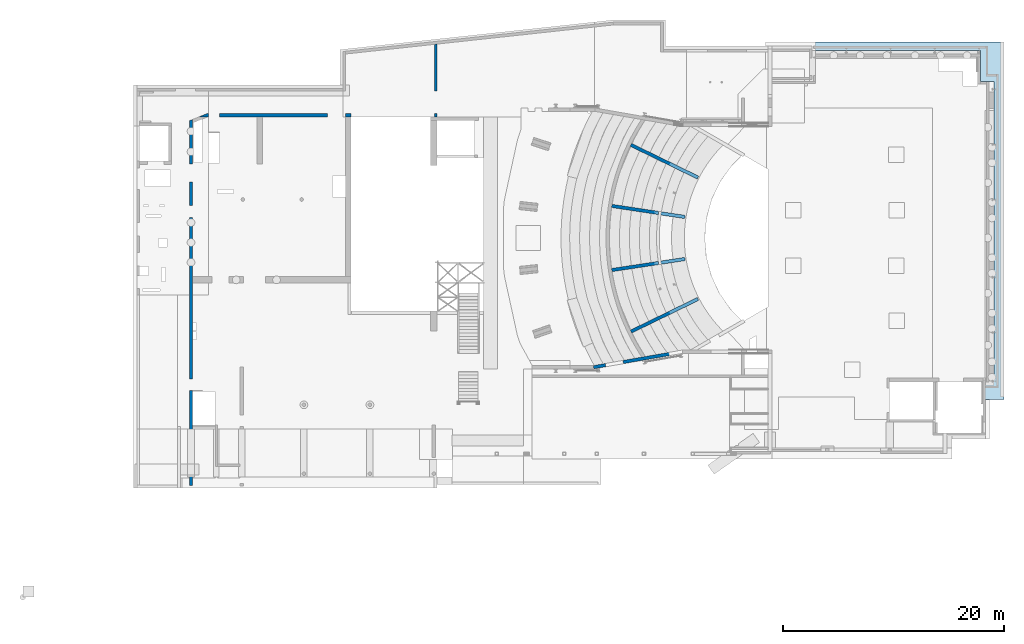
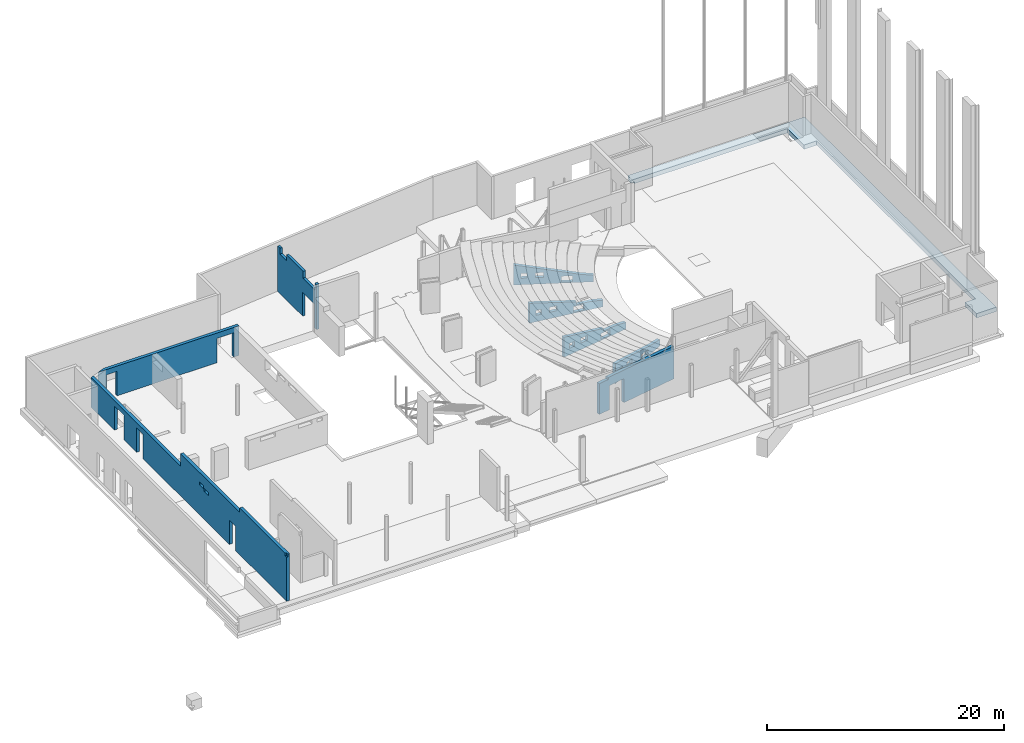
# One storey, part 33 of 34: 8 walls, 1 slab.
"""IFC2X3 building model written with IfcOpenShell, lengths in millimetres."""

from ifc_helpers import new_model, entity, si_unit, converted_unit, derived_unit, direction, frame, origin, place, context, subcontext, project, spatial, faceted_brep, material, layer, layer_set, type_object, element, save


model = new_model("IFC2X3")

# Units and contexts
model_context = context("Model", 3, precision=0.01, world=origin(), true_north=direction((6.12303176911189e-17, 1.0)))
body_context = subcontext(model_context, "Body", "Model", "MODEL_VIEW")
ifc_project = project(units=[si_unit("LENGTHUNIT", "METRE", prefix="MILLI"), si_unit("AREAUNIT", "SQUARE_METRE", prefix="MILLI"), si_unit("VOLUMEUNIT", "CUBIC_METRE"), converted_unit("PLANEANGLEUNIT", "DEGREE", entity("IfcRatioMeasure", 0.0174532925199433), si_unit("PLANEANGLEUNIT", "RADIAN"), dimensions=[0, 0, 0, 0, 0, 0, 0]), si_unit("MASSUNIT", "GRAM", prefix="KILO"), derived_unit("MASSDENSITYUNIT", [(si_unit("MASSUNIT", "GRAM", prefix="KILO"), 1), (si_unit("LENGTHUNIT", "METRE"), -3)]), derived_unit("MOMENTOFINERTIAUNIT", [(si_unit("LENGTHUNIT", "METRE"), 4)]), si_unit("TIMEUNIT", "SECOND"), si_unit("FREQUENCYUNIT", "HERTZ"), si_unit("THERMODYNAMICTEMPERATUREUNIT", "DEGREE_CELSIUS"), derived_unit("THERMALTRANSMITTANCEUNIT", [(si_unit("MASSUNIT", "GRAM", prefix="KILO"), 1), (si_unit("THERMODYNAMICTEMPERATUREUNIT", "KELVIN"), -1), (si_unit("TIMEUNIT", "SECOND"), -3)]), derived_unit("VOLUMETRICFLOWRATEUNIT", [(si_unit("LENGTHUNIT", "METRE"), 3), (si_unit("TIMEUNIT", "SECOND"), -1)]), si_unit("ELECTRICCURRENTUNIT", "AMPERE"), si_unit("ELECTRICVOLTAGEUNIT", "VOLT"), si_unit("POWERUNIT", "WATT"), si_unit("FORCEUNIT", "NEWTON", prefix="KILO"), si_unit("ILLUMINANCEUNIT", "LUX"), si_unit("LUMINOUSFLUXUNIT", "LUMEN"), si_unit("LUMINOUSINTENSITYUNIT", "CANDELA"), derived_unit("USERDEFINED", [(si_unit("MASSUNIT", "GRAM", prefix="KILO"), -1), (si_unit("LENGTHUNIT", "METRE"), -2), (si_unit("TIMEUNIT", "SECOND"), 3), (si_unit("LUMINOUSFLUXUNIT", "LUMEN"), 1)]), derived_unit("LINEARVELOCITYUNIT", [(si_unit("LENGTHUNIT", "METRE"), 1), (si_unit("TIMEUNIT", "SECOND"), -1)]), si_unit("PRESSUREUNIT", "PASCAL"), derived_unit("USERDEFINED", [(si_unit("LENGTHUNIT", "METRE"), -2), (si_unit("MASSUNIT", "GRAM", prefix="KILO"), 1), (si_unit("TIMEUNIT", "SECOND"), -2)]), derived_unit("LINEARFORCEUNIT", [(si_unit("MASSUNIT", "GRAM", prefix="KILO"), 1), (si_unit("LENGTHUNIT", "METRE"), 1), (si_unit("TIMEUNIT", "SECOND"), -2), (si_unit("LENGTHUNIT", "METRE"), -1)]), derived_unit("PLANARFORCEUNIT", [(si_unit("MASSUNIT", "GRAM", prefix="KILO"), 1), (si_unit("LENGTHUNIT", "METRE"), 1), (si_unit("TIMEUNIT", "SECOND"), -2), (si_unit("LENGTHUNIT", "METRE"), -2)])], contexts=[model_context])

# Site, building, storey
site_placement = place(None, origin())
site = spatial("IfcSite", under=ifc_project, at=site_placement, Name="Theater aan de Parade", CompositionType="ELEMENT")
building_placement = place(site_placement, origin())
building = spatial("IfcBuilding", under=site, at=building_placement, Name="Theater aan de Parade", CompositionType="ELEMENT")
storey_placement = place(building_placement, frame((0.0, 0.0, 3.49116848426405e-09)))
storey = spatial("IfcBuildingStorey", under=building, at=storey_placement, Name="00 begane grond", CompositionType="ELEMENT", Elevation=3.49116848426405e-09)

# Slab
ifc_material_1 = material(Name="00_PBT_MAT_beton t.p.g._C30/37")
slab_type = type_object("IfcSlabType", Name="Floor:28_PBT_FL_beton t.p.g._d=450_C30/37", PredefinedType="FLOOR")
slab_placement = place(storey_placement, origin())
element("IfcSlab", 1, at=slab_placement, inside=storey, type_object=slab_type, material=ifc_material_1, Name="Floor:28_PBT_FL_beton t.p.g._d=450_C30/37", ObjectType="Floor:28_PBT_FL_beton t.p.g._d=450_C30/37", PredefinedType="FLOOR", context=body_context, shape_type="Brep", body=[
    faceted_brep([(86766.0, 19810.0002435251, -740.0), (86961.0, 19810.0002435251, -740.0), (87796.0, 19810.0002435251, -740.0), (87796.0, 43961.8723406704, -740.0), (87796.0, 46611.8723406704, -740.0), (86555.1683175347, 46611.8723406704, -740.0), (86555.1683175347, 49412.0, -740.0), (86305.1683175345, 49412.0, -740.0), (71657.0, 49412.0, -740.0), (71657.0, 49820.0, -740.0), (71657.0, 50170.0, -740.0), (88360.0, 50170.0, -740.0), (88610.0, 50170.0, -740.0), (88680.0, 50170.0, -740.0), (88680.0, 18105.0, -740.0), (88680.0, 17855.0, -740.0), (86766.0, 17855.0, -740.0), (87796.0, 19810.0002435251, -290.0), (87016.0, 19810.0002435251, -290.0), (86766.0, 19810.0002435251, -290.0), (86766.0, 17855.0, -290.0), (87016.0, 17855.0, -290.0), (88680.0, 17855.0, -290.0), (88680.0, 50170.0, -290.0), (71456.41678021, 50170.0, -290.0), (71456.4185837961, 49812.0, -290.0), (71307.1321785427, 49812.0, -290.0), (71307.1321785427, 49412.0, -290.0), (86555.1683175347, 49412.0, -290.0), (86555.1683175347, 46611.8723406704, -290.0), (87796.0, 46611.8723406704, -290.0), (71307.1321785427, 49412.0, -550.0), (71657.0, 49412.0, -550.0), (71456.41678021, 50170.0, -550.0), (71456.4185837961, 49812.0, -550.0), (71657.0, 50170.0, -550.0), (86766.0, 17855.0, -390.0), (71307.1321785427, 49812.0, -550.0)], [[[0, 1, 2, 3, 4, 5, 6, 7, 8, 9, 10, 11, 12, 13, 14, 15, 16]], [[17, 18, 19, 20, 21, 22, 23, 24, 25, 26, 27, 28, 29, 30]], [[2, 1, 0, 19, 18, 17]], [[4, 3, 2, 17, 30]], [[5, 4, 30, 29]], [[6, 5, 29, 28]], [[28, 27, 31, 32, 8, 7, 6]], [[25, 24, 33, 34]], [[24, 23, 13, 12, 11, 10, 35, 33]], [[15, 14, 13, 23, 22]], [[16, 15, 22, 21, 20, 36]], [[0, 16, 36, 20, 19]], [[27, 26, 37, 31]], [[26, 25, 34, 37]], [[35, 32, 31, 37, 34, 33]], [[32, 35, 10, 9, 8]]]),
])

# Walls
ifc_material_2 = material(Name="00_PBT_MAT_beton t.p.g.")
ifc_layer_1 = layer(ifc_material_2, 300.0)
ifc_layer_set_1 = layer_set([ifc_layer_1], Name="Basic Wall:28_PBT_WA_beton t.p.g._d=300_bestaand")
wall_type_1 = type_object("IfcWallType", Name="Basic Wall:28_PBT_WA_beton t.p.g._d=300_bestaand", PredefinedType="STANDARD", material=ifc_layer_set_1)
wall_1_placement = place(storey_placement, frame((53233.3110657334, 35358.0453580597, -60.0), z_axis=(0.0, 0.0, 1.0), x_axis=(0.988744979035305, -0.149610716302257, 0.0)))
element("IfcWall", 2, at=wall_1_placement, inside=storey, type_object=wall_type_1, Name="Basic Wall:28_PBT_WA_beton t.p.g._d=300_bestaand", ObjectType="Basic Wall:28_PBT_WA_beton t.p.g._d=300_bestaand", context=body_context, shape_type="Brep", body=[
    faceted_brep([(0.0, -150.0, 0.0), (619.638540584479, -150.0, 660.0), (619.638540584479, -150.0, 1160.0), (1119.63854058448, -150.0, 660.0), (1819.63854058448, -150.0, 660.0), (4014.63854058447, -150.0, 100.0), (6685.90223533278, -150.0, 0.0), (0.0, -150.0, 840.927086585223), (4964.63854058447, -150.0, 100.0), (5604.59947592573, -150.0, 830.0), (6685.90223533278, -150.0, 652.802397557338), (6685.90223533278, -150.0, 679.668058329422), (5546.72611414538, -150.0, 830.0), (4964.63854058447, -150.0, 700.0), (4273.7270794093, -150.0, 830.0), (4014.63854058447, -150.0, 700.0), (4273.7270794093, -150.0, 1103.88466809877), (4273.7270794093, -150.0, 1120.0), (2519.63854058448, -150.0, 1160.0), (30.1651784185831, -150.0, 2052.0), (0.0, -150.0, 2052.0), (1119.63854058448, -150.0, 1160.0), (1819.63854058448, -150.0, 1160.0), (2519.63854058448, -150.0, 660.0), (5604.59947592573, 150.0, 830.0), (6688.85036045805, 150.0, 652.450528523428), (6688.85036045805, 150.0, 0.0), (4964.63854058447, 150.0, 100.0), (6688.85036045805, 150.0, 679.258184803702), (4964.63854058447, 150.0, 700.0), (4273.72707940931, 150.0, 830.0), (4014.63854058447, 150.0, 100.0), (0.447624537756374, 150.0, 0.0), (1819.63854058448, 150.0, 660.0), (1119.63854058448, 150.0, 660.0), (619.638540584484, 150.0, 660.0), (619.638540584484, 150.0, 1160.0), (0.44762453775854, 150.0, 1211.07291341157), (0.447624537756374, 150.0, 2052.0), (30.1651784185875, 150.0, 2052.0), (1119.63854058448, 150.0, 1160.0), (1819.63854058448, 150.0, 1160.0), (2519.63854058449, 150.0, 1160.0), (4273.72707940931, 150.0, 1120.0), (4014.63854058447, 150.0, 700.0), (4273.72707940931, 150.0, 1104.01231022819), (2519.63854058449, 150.0, 660.0), (-0.360673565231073, 0.000872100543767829, 2052.0), (-0.370893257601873, -7.94860949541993, 1026.0), (-0.360673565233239, 0.000872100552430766, 0.0), (6686.43668008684, 0.0092337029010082, 0.0), (6686.43668008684, 0.0092337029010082, 679.593755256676)], [[[0, 1, 2]], [[1, 0, 3]], [[4, 3, 0]], [[4, 0, 5]], [[5, 0, 6]], [[2, 7, 0]], [[8, 5, 6]], [[8, 6, 9]], [[10, 9, 6]], [[9, 10, 11]], [[8, 9, 12]], [[12, 13, 8]], [[14, 13, 12]], [[15, 13, 14]], [[16, 15, 14]], [[15, 16, 17]], [[15, 17, 18]], [[19, 18, 17]], [[20, 2, 19]], [[19, 2, 21]], [[22, 18, 19]], [[21, 22, 19]], [[4, 22, 21]], [[21, 3, 4]], [[2, 20, 7]], [[23, 15, 18]], [[5, 23, 4]], [[5, 15, 23]], [[24, 25, 26]], [[26, 27, 24]], [[25, 24, 28]], [[29, 24, 27]], [[24, 29, 30]], [[31, 27, 26]], [[26, 32, 31]], [[31, 32, 33]], [[32, 34, 33]], [[34, 32, 35]], [[35, 32, 36]], [[36, 32, 37]], [[36, 37, 38]], [[36, 38, 39]], [[36, 39, 40]], [[41, 40, 39]], [[42, 41, 39]], [[42, 39, 43]], [[43, 44, 42]], [[43, 45, 44]], [[44, 45, 30]], [[44, 30, 29]], [[31, 46, 44]], [[46, 42, 44]], [[33, 40, 41]], [[40, 33, 34]], [[46, 31, 33]], [[37, 47, 38]], [[20, 48, 7]], [[49, 7, 48]], [[20, 47, 48]], [[7, 49, 0]], [[32, 48, 37]], [[37, 48, 47]], [[32, 49, 48]], [[0, 49, 32, 26, 50, 6]], [[20, 19, 39, 38, 47]], [[9, 11, 51, 28, 24]], [[12, 9, 24, 30, 14]], [[16, 14, 30, 45, 43, 17]], [[19, 17, 43, 39]], [[1, 3, 34, 35]], [[4, 23, 46, 33]], [[2, 1, 35, 36]], [[21, 2, 36, 40]], [[18, 22, 41, 42]], [[3, 21, 40, 34]], [[5, 8, 27, 31]], [[15, 5, 31, 44]], [[13, 15, 44, 29]], [[8, 13, 29, 27]], [[50, 26, 25, 28, 51]], [[10, 6, 50, 51, 11]], [[22, 4, 33, 41]], [[23, 18, 42, 46]]]),
])
wall_2_placement = place(storey_placement, frame((51584.4807077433, 20777.7545700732, -60.0), z_axis=(0.0, 0.0, 1.0), x_axis=(0.985030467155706, 0.172380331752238, 0.0)))
element("IfcWall", 3, at=wall_2_placement, inside=storey, type_object=wall_type_1, Name="Basic Wall:28_PBT_WA_beton t.p.g._d=300_bestaand", ObjectType="Basic Wall:28_PBT_WA_beton t.p.g._d=300_bestaand", context=body_context, shape_type="Brep", body=[
    faceted_brep([(0.0, -150.0, 0.0), (1099.76239494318, -150.0, 0.0), (1099.76239494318, -150.0, 2480.0), (2719.7623949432, -150.0, 2480.0), (2719.7623949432, -150.0, 0.0), (5124.10572775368, -150.0, 0.0), (5473.8611288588, -150.0, 0.0), (8179.58746028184, -150.0, 0.0), (8205.6395035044, -150.0, 0.0), (8205.6395035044, -150.0, 3370.0), (1027.0515049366, -150.0, 3370.0), (1027.0515049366, -150.0, 3170.0), (0.0, -150.0, 3170.0), (8205.6395035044, 150.0, 0.0), (4774.01469589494, 150.0, 0.0), (4446.49016688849, 150.0, 0.0), (2719.7623949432, 150.0, 0.0), (2719.7623949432, 150.0, 2480.0), (1099.76239494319, 150.0, 2480.0), (1099.76239494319, 150.0, 0.0), (26.0520432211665, 150.0, 0.0), (26.0520432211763, 150.0, 3170.0), (84.776929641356, 150.0, 3170.0), (915.869115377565, 150.0, 3170.0), (915.869115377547, 150.0, 3370.0), (8205.6395035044, 150.0, 3370.0), (970.933376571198, -0.19098408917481, 3170.0), (970.93477828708, -0.194766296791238, 3370.0)], [[[0, 1, 2, 3, 4, 5, 6, 7, 8, 9, 10, 11, 12]], [[13, 14, 15, 16, 17, 18, 19, 20, 21, 22, 23, 24, 25]], [[21, 20, 0, 12]], [[12, 11, 26, 23, 22, 21]], [[23, 26, 24]], [[24, 26, 27]], [[27, 11, 10]], [[11, 27, 26]], [[1, 0, 20, 19]], [[5, 4, 16, 15, 14, 13, 8, 7, 6]], [[9, 8, 13, 25]], [[10, 9, 25, 24, 27]], [[2, 1, 19, 18]], [[3, 2, 18, 17]], [[4, 3, 17, 16]]]),
])
wall_3_placement = place(storey_placement, frame((53230.698824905, 29560.0462364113, -60.0), z_axis=(0.0, 0.0, 1.0), x_axis=(0.988744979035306, 0.149610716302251, 0.0)))
element("IfcWall", 4, at=wall_3_placement, inside=storey, type_object=wall_type_1, Name="Basic Wall:28_PBT_WA_beton t.p.g._d=300_bestaand", ObjectType="Basic Wall:28_PBT_WA_beton t.p.g._d=300_bestaand", context=body_context, shape_type="Brep", body=[
    faceted_brep([(0.162721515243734, -150.0, 0.0), (607.545826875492, -150.0, 660.0), (607.545826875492, -150.0, 1160.0), (1107.5458268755, -150.0, 660.0), (1807.5458268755, -150.0, 660.0), (4002.54582687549, -150.0, 100.0), (6688.33177812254, -150.0, 0.0), (0.162721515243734, -150.0, 840.927086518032), (4952.54582687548, -150.0, 100.0), (5592.50676221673, -150.0, 830.0), (6688.33177812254, -150.0, 677.415528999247), (4952.54582687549, -150.0, 700.0), (4517.65255702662, -150.0, 830.0), (4002.54582687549, -150.0, 700.0), (4267.65249423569, -150.0, 830.0), (4261.63436570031, -150.0, 830.0), (4261.63436570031, -150.0, 1120.0), (2507.5458268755, -150.0, 1160.0), (30.02287237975, -150.0, 2052.0), (0.162721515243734, -150.0, 2052.0), (1107.5458268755, -150.0, 1160.0), (1807.5458268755, -150.0, 1160.0), (2507.5458268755, -150.0, 660.0), (5592.50676221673, 150.0, 830.0), (6685.84170753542, 150.0, 677.762250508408), (6685.84170753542, 150.0, 0.0), (4952.54582687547, 150.0, 100.0), (4952.54582687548, 150.0, 700.0), (4261.63436570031, 150.0, 830.0), (4002.54582687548, 150.0, 100.0), (0.0, 150.0, 0.0), (1807.54582687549, 150.0, 660.0), (1107.54582687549, 150.0, 660.0), (607.545826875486, 150.0, 660.0), (607.545826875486, 150.0, 1160.0), (0.0, 150.0, 1211.07291347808), (0.0, 150.0, 2052.0), (30.0228723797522, 150.0, 2052.0), (1107.54582687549, 150.0, 1160.0), (1807.54582687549, 150.0, 1160.0), (2507.54582687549, 150.0, 1160.0), (4261.63436570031, 150.0, 1120.0), (4002.54582687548, 150.0, 700.0), (2507.54582687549, 150.0, 660.0), (-0.50312451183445, -0.000317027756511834, 0.0), (6686.14713802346, -0.00779894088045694, 0.0), (-0.50312451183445, -0.000317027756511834, 2052.0), (6686.14713802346, -0.00779894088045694, 677.719721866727), (-0.497171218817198, -7.94966574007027, 1026.0)], [[[0, 1, 2]], [[1, 0, 3]], [[4, 3, 0]], [[4, 0, 5]], [[5, 0, 6]], [[2, 7, 0]], [[6, 8, 5]], [[9, 8, 6]], [[10, 9, 6]], [[11, 8, 9]], [[9, 12, 11]], [[13, 11, 12]], [[13, 12, 14]], [[15, 13, 14]], [[13, 15, 16]], [[13, 16, 17]], [[18, 17, 16]], [[19, 2, 18]], [[18, 2, 20]], [[21, 17, 18]], [[20, 21, 18]], [[4, 21, 20]], [[20, 3, 4]], [[2, 19, 7]], [[22, 13, 17]], [[5, 22, 4]], [[5, 13, 22]], [[23, 24, 25]], [[23, 25, 26]], [[23, 26, 27]], [[28, 23, 27]], [[29, 26, 25]], [[25, 30, 29]], [[29, 30, 31]], [[30, 32, 31]], [[32, 30, 33]], [[33, 30, 34]], [[34, 30, 35]], [[34, 35, 36]], [[34, 36, 37]], [[34, 37, 38]], [[39, 38, 37]], [[39, 37, 40]], [[41, 40, 37]], [[41, 42, 40]], [[42, 41, 28]], [[42, 28, 27]], [[43, 40, 42]], [[42, 29, 43]], [[43, 29, 31]], [[39, 31, 38]], [[38, 31, 32]], [[6, 0, 44, 30, 25, 45]], [[19, 18, 37, 36, 46]], [[9, 10, 47, 24, 23]], [[15, 14, 12, 9, 23, 28]], [[16, 15, 28, 41]], [[18, 16, 41, 37]], [[35, 46, 36]], [[19, 48, 7]], [[44, 7, 48]], [[19, 46, 48]], [[7, 44, 0]], [[30, 48, 35]], [[35, 48, 46]], [[30, 44, 48]], [[13, 5, 29, 42]], [[11, 13, 42, 27]], [[8, 11, 27, 26]], [[5, 8, 26, 29]], [[2, 1, 33, 34]], [[20, 2, 34, 38]], [[17, 21, 39, 40]], [[3, 20, 38, 32]], [[1, 3, 32, 33]], [[4, 22, 43, 31]], [[47, 45, 25, 24]], [[10, 6, 45, 47]], [[21, 4, 31, 39]], [[22, 17, 40, 43]]]),
])
wall_4_placement = place(storey_placement, frame((54955.3595623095, 40877.100131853, -60.0), z_axis=(0.0, 0.0, 1.0), x_axis=(0.898786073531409, -0.438387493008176, 0.0)))
element("IfcWall", 5, at=wall_4_placement, inside=storey, type_object=wall_type_1, Name="Basic Wall:28_PBT_WA_beton t.p.g._d=300_bestaand", ObjectType="Basic Wall:28_PBT_WA_beton t.p.g._d=300_bestaand", context=body_context, shape_type="Brep", body=[
    faceted_brep([(0.186690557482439, -150.0, 0.0), (634.675254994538, -150.0, 660.0), (634.675254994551, -150.0, 1160.0), (1134.67525499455, -150.0, 660.0), (1834.67525499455, -150.0, 660.0), (4029.67525499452, -150.0, 100.0), (6739.62788632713, -150.0, 0.0), (0.186690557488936, -150.0, 840.927086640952), (4979.67525499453, -150.0, 100.0), (5619.63619033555, -150.0, 830.0), (6739.62788632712, -150.0, 644.499601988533), (6739.62788632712, -150.0, 673.89050672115), (4979.67525499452, -150.0, 700.0), (4029.67525499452, -150.0, 700.0), (2534.67525499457, -150.0, 1160.0), (30.0348498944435, -150.0, 2052.0), (0.186690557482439, -150.0, 2052.0), (1134.67525499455, -150.0, 1160.0), (1834.67525499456, -150.0, 1160.0), (2534.67525499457, -150.0, 660.0), (5619.63619033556, 150.0, 830.0), (6745.85874492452, 150.0, 651.623871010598), (6745.85874492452, 150.0, 0.0), (4979.67525499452, 150.0, 100.0), (6745.85874492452, 150.0, 673.022021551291), (4979.67525499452, 150.0, 700.0), (4029.67525499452, 150.0, 700.0), (2534.67525499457, 150.0, 1160.0), (30.0348498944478, 150.0, 2052.0), (4029.67525499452, 150.0, 100.0), (0.0, 150.0, 0.0), (1834.67525499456, 150.0, 660.0), (1134.67525499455, 150.0, 660.0), (634.675254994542, 150.0, 660.0), (634.675254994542, 150.0, 1160.0), (0.0, 150.0, 1211.07291335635), (0.0, 150.0, 2052.0), (1134.67525499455, 150.0, 1160.0), (1834.67525499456, 150.0, 1160.0), (2534.67525499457, 150.0, 660.0), (-0.491140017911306, -0.000363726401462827, 0.0), (6741.8035405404, 0.0195186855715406, 0.0), (-0.491140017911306, -0.000363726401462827, 2052.0), (6741.8035405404, 0.0195186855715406, 673.587254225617), (-0.484551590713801, -7.94971853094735, 1026.0)], [[[0, 1, 2]], [[1, 0, 3]], [[4, 3, 0]], [[0, 5, 4]], [[5, 0, 6]], [[2, 7, 0]], [[6, 8, 5]], [[9, 8, 6]], [[10, 9, 6]], [[11, 9, 10]], [[8, 9, 12]], [[12, 9, 13]], [[14, 13, 9]], [[14, 9, 15]], [[15, 16, 2]], [[2, 17, 15]], [[17, 18, 15]], [[15, 18, 14]], [[2, 16, 7]], [[13, 14, 19]], [[13, 19, 5]], [[5, 19, 4]], [[17, 3, 4]], [[17, 4, 18]], [[20, 21, 22]], [[20, 22, 23]], [[24, 21, 20]], [[20, 23, 25]], [[26, 20, 25]], [[26, 27, 20]], [[20, 27, 28]], [[29, 23, 22]], [[22, 30, 29]], [[29, 30, 31]], [[30, 32, 31]], [[32, 30, 33]], [[33, 30, 34]], [[34, 30, 35]], [[34, 35, 36]], [[34, 36, 28]], [[34, 28, 37]], [[38, 37, 28]], [[38, 28, 27]], [[39, 27, 26]], [[38, 31, 37]], [[37, 31, 32]], [[39, 29, 31]], [[26, 29, 39]], [[0, 40, 30, 22, 41, 6]], [[16, 15, 28, 36, 42]], [[9, 11, 43, 24, 20]], [[15, 9, 20, 28]], [[35, 42, 36]], [[16, 44, 7]], [[40, 7, 44]], [[16, 42, 44]], [[7, 40, 0]], [[30, 44, 35]], [[35, 44, 42]], [[30, 40, 44]], [[1, 3, 32, 33]], [[4, 19, 39, 31]], [[2, 1, 33, 34]], [[17, 2, 34, 37]], [[14, 18, 38, 27]], [[3, 17, 37, 32]], [[5, 8, 23, 29]], [[13, 5, 29, 26]], [[12, 13, 26, 25]], [[8, 12, 25, 23]], [[41, 22, 21, 24, 43]], [[10, 6, 41, 43, 11]], [[18, 4, 31, 38]], [[19, 14, 27, 39]]]),
])
wall_5_placement = place(storey_placement, frame((54968.0040914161, 23996.8664780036, -60.0), z_axis=(0.0, 0.0, 1.0), x_axis=(0.898823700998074, 0.438310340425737, 0.0)))
element("IfcWall", 6, at=wall_5_placement, inside=storey, type_object=wall_type_1, Name="Basic Wall:28_PBT_WA_beton t.p.g._d=300_bestaand", ObjectType="Basic Wall:28_PBT_WA_beton t.p.g._d=300_bestaand", context=body_context, shape_type="Brep", body=[
    faceted_brep([(0.290160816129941, -150.0, 0.0), (599.652240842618, -150.0, 660.0), (599.652240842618, -150.0, 1160.0), (1099.65224084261, -150.0, 660.0), (1799.65224084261, -150.0, 660.0), (3994.6522408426, -150.0, 100.0), (6746.9393947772, -150.0, 0.0), (0.290160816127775, -150.0, 840.927086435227), (4944.65224084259, -150.0, 100.0), (5584.61317618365, -150.0, 830.0), (6746.93939477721, -150.0, 643.383231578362), (6746.93939477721, -150.0, 666.399550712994), (4944.65224084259, -150.0, 700.0), (3994.6522408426, -150.0, 700.0), (2499.65224084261, -150.0, 1160.0), (30.0865437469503, -150.0, 2052.0), (0.290160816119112, -150.0, 2052.0), (1099.65224084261, -150.0, 1160.0), (1799.65224084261, -150.0, 1160.0), (2499.65224084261, -150.0, 660.0), (5584.61317618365, 150.0, 830.0), (6739.9425595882, 150.0, 644.402076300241), (6739.9425595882, 150.0, 0.0), (4944.65224084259, 150.0, 100.0), (6739.9425595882, 150.0, 667.384373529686), (4944.65224084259, 150.0, 700.0), (3994.6522408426, 150.0, 700.0), (2499.65224084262, 150.0, 1160.0), (30.0865437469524, 150.0, 2052.0), (3994.6522408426, 150.0, 100.0), (0.0, 150.0, 0.0), (1799.65224084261, 150.0, 660.0), (1099.65224084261, 150.0, 660.0), (599.652240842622, 150.0, 660.0), (599.652240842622, 150.0, 1160.0), (0.0, 150.0, 1211.07291355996), (0.0, 150.0, 2052.0), (1099.65224084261, 150.0, 1160.0), (1799.65224084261, 150.0, 1160.0), (2499.65224084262, 150.0, 660.0), (-0.43940504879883, -0.000565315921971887, 0.0), (6742.50114921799, -0.0219194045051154, 0.0), (-0.43940504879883, -0.000565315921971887, 2052.0), (6742.50114921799, -0.0219194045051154, 667.024245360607), (-0.430074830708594, -7.94995634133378, 1026.0)], [[[0, 1, 2]], [[1, 0, 3]], [[4, 3, 0]], [[0, 5, 4]], [[5, 0, 6]], [[2, 7, 0]], [[6, 8, 5]], [[9, 8, 6]], [[10, 9, 6]], [[11, 9, 10]], [[8, 9, 12]], [[12, 9, 13]], [[14, 13, 9]], [[14, 9, 15]], [[15, 16, 2]], [[2, 17, 15]], [[17, 18, 15]], [[15, 18, 14]], [[2, 16, 7]], [[13, 14, 19]], [[13, 19, 5]], [[5, 19, 4]], [[17, 3, 4]], [[17, 4, 18]], [[20, 21, 22]], [[20, 22, 23]], [[24, 21, 20]], [[20, 23, 25]], [[26, 20, 25]], [[26, 27, 20]], [[20, 27, 28]], [[29, 23, 22]], [[22, 30, 29]], [[29, 30, 31]], [[30, 32, 31]], [[32, 30, 33]], [[33, 30, 34]], [[34, 30, 35]], [[34, 35, 36]], [[34, 36, 28]], [[34, 28, 37]], [[38, 37, 28]], [[38, 28, 27]], [[39, 27, 26]], [[38, 31, 37]], [[37, 31, 32]], [[39, 29, 31]], [[26, 29, 39]], [[6, 0, 40, 30, 22, 41]], [[16, 15, 28, 36, 42]], [[9, 11, 43, 24, 20]], [[15, 9, 20, 28]], [[35, 42, 36]], [[16, 44, 7]], [[40, 7, 44]], [[16, 42, 44]], [[7, 40, 0]], [[30, 44, 35]], [[35, 44, 42]], [[30, 40, 44]], [[13, 5, 29, 26]], [[12, 13, 26, 25]], [[8, 12, 25, 23]], [[5, 8, 23, 29]], [[2, 1, 33, 34]], [[17, 2, 34, 37]], [[14, 18, 38, 27]], [[3, 17, 37, 32]], [[1, 3, 32, 33]], [[4, 19, 39, 31]], [[41, 22, 21, 24, 43]], [[10, 6, 41, 43, 11]], [[18, 4, 31, 38]], [[19, 14, 27, 39]]]),
])
ifc_layer_2 = layer(ifc_material_1, 300.0)
ifc_layer_set_2 = layer_set([ifc_layer_2], Name="Basic Wall:28_PBT_WA_beton t.p.g._d=300_C30/37")
wall_type_2 = type_object("IfcWallType", Name="Basic Wall:28_PBT_WA_beton t.p.g._d=300_C30/37", PredefinedType="STANDARD", material=ifc_layer_set_2)
wall_6_placement = place(storey_placement, frame((15203.8570025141, 43174.8820599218, -90.0), z_axis=(0.0, 0.0, 1.0), x_axis=(0.0, -1.0, 0.0)))
element("IfcWall", 7, at=wall_6_placement, inside=storey, type_object=wall_type_2, Name="Basic Wall:28_PBT_WA_beton t.p.g._d=300_C30/37", ObjectType="Basic Wall:28_PBT_WA_beton t.p.g._d=300_C30/37", context=body_context, shape_type="Brep", body=[
    faceted_brep([(25163.5736130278, -150.0, 4810.0), (25163.5736130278, -150.0, 4360.0), (15201.5675600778, -150.0, 4360.0), (15201.5675600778, -150.0, 3560.0), (15201.5675600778, -150.0, 3060.0), (121.313629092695, -150.0, 3060.0), (121.313629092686, -150.0, 0.0), (4033.07612602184, -150.0, 0.0), (4033.07612602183, -150.0, 2510.0), (5673.07612602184, -150.0, 2510.0), (5673.07612602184, -150.0, 0.0), (7800.28374952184, -150.0, 0.0), (7800.28374952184, -150.0, 2510.0), (8854.28374952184, -150.0, 2510.0), (8854.28374952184, -150.0, 0.0), (23448.5419112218, -150.0, 0.0), (23448.5419112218, -150.0, 2510.0), (24502.5419112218, -150.0, 2510.0), (24502.5419112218, -150.0, 0.0), (33105.5549853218, -150.0, 0.0), (33105.5549853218, -150.0, 4550.0), (32855.5549853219, -150.0, 4550.0), (32855.5549853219, -150.0, 4810.0), (19084.3828496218, -150.0, 3420.0), (19084.3828496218, -150.0, 3120.0), (18384.3828496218, -150.0, 3120.0), (18384.3828496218, -150.0, 3420.0), (19896.5675600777, -150.0, 3195.0), (19896.5675600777, -150.0, 2895.0), (19196.5675600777, -150.0, 2895.0), (19196.5675600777, -150.0, 3195.0), (33105.5549853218, 150.0, 4810.0), (33105.5549853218, 150.0, 0.0), (27809.9067831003, 150.0, 0.0), (27609.9067831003, 150.0, 0.0), (24502.5419112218, 150.0, 0.0), (24502.5419112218, 150.0, 2510.0), (23448.5419112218, 150.0, 2510.0), (23448.5419112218, 150.0, 0.0), (14801.5675600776, 150.0, 0.0), (14201.5675600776, 150.0, 0.0), (8854.28374952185, 150.0, 0.0), (8854.28374952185, 150.0, 2510.0), (7800.28374952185, 150.0, 2510.0), (7800.28374952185, 150.0, 0.0), (5673.07612602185, 150.0, 0.0), (5673.07612602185, 150.0, 2510.0), (4033.07612602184, 150.0, 2510.0), (4033.07612602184, 150.0, 0.0), (323.600056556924, 150.0, 0.0), (0.0, 150.0, 0.0), (0.0, 150.0, 3060.0), (323.600056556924, 150.0, 3060.0), (14201.5675600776, 150.0, 3060.0), (14801.5675600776, 150.0, 3060.0), (15201.5675600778, 150.0, 3060.0), (15201.5675600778, 150.0, 4360.0), (25163.5736130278, 150.0, 4360.0), (25163.5736130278, 150.0, 4810.0), (26063.5736130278, 150.0, 4810.0), (28011.2549853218, 150.0, 4810.0), (31155.5549852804, 150.0, 4810.0), (19084.3828496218, 150.0, 3120.0), (19084.3828496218, 150.0, 3420.0), (18384.3828496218, 150.0, 3420.0), (18384.3828496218, 150.0, 3120.0), (19896.5675600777, 150.0, 2895.0), (19896.5675600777, 150.0, 3195.0), (19196.5675600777, 150.0, 3195.0), (19196.5675600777, 150.0, 2895.0), (33105.5549853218, 0.0, 4810.0), (33105.5549853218, 0.0, 4550.0), (32855.5549853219, 0.0, 4810.0), (32855.5549853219, 0.0, 4550.0)], [[[0, 1, 2, 3, 4, 5, 6, 7, 8, 9, 10, 11, 12, 13, 14, 15, 16, 17, 18, 19, 20, 21, 22], [23, 24, 25, 26], [27, 28, 29, 30]], [[31, 32, 33, 34, 35, 36, 37, 38, 39, 40, 41, 42, 43, 44, 45, 46, 47, 48, 49, 50, 51, 52, 53, 54, 55, 56, 57, 58, 59, 60, 61], [62, 63, 64, 65], [66, 67, 68, 69]], [[9, 46, 45, 10]], [[47, 8, 7, 48]], [[46, 9, 8, 47]], [[2, 1, 57, 56]], [[5, 4, 55, 54, 53, 52, 51]], [[48, 7, 6, 50, 49]], [[32, 31, 70, 71, 20, 19]], [[31, 61, 60, 59, 58, 0, 22, 72, 70]], [[1, 0, 58, 57]], [[56, 55, 4, 3, 2]], [[17, 36, 35, 18]], [[37, 16, 15, 38]], [[36, 17, 16, 37]], [[13, 42, 41, 14]], [[43, 12, 11, 44]], [[42, 13, 12, 43]], [[6, 5, 51, 50]], [[62, 24, 23, 63]], [[24, 62, 65, 25]], [[25, 65, 64, 26]], [[63, 23, 26, 64]], [[66, 28, 27, 67]], [[28, 66, 69, 29]], [[29, 69, 68, 30]], [[67, 27, 30, 68]], [[21, 73, 72, 22]], [[71, 73, 21, 20]], [[73, 71, 70, 72]], [[10, 45, 44, 11]], [[38, 15, 14, 41, 40, 39]], [[32, 19, 18, 35, 34, 33]]]),
])
wall_7_placement = place(storey_placement, frame((15910.5577007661, 43550.0, -90.0)))
element("IfcWall", 8, at=wall_7_placement, inside=storey, type_object=wall_type_2, Name="Basic Wall:28_PBT_WA_beton t.p.g._d=300_C30/37", ObjectType="Basic Wall:28_PBT_WA_beton t.p.g._d=300_C30/37", context=body_context, shape_type="Brep", body=[
    faceted_brep([(13264.442299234, -150.0, 0.0), (13764.442299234, -150.0, 0.0), (13764.442299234, -150.0, 3060.0), (13264.442299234, -150.0, 3060.0), (5754.44229923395, -150.0, 3060.0), (5254.44229923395, -150.0, 3060.0), (800.239986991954, -150.0, 3060.0), (0.0, -150.0, 3060.0), (0.0, -150.0, 0.0), (800.239986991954, -150.0, 0.0), (854.442299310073, -150.0, 0.0), (854.442299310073, -150.0, 2510.0), (1874.44229931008, -150.0, 2510.0), (1874.44229931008, -150.0, 0.0), (5254.44229923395, -150.0, 0.0), (5754.44229923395, -150.0, 0.0), (11624.442299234, -150.0, 0.0), (11624.442299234, -150.0, 2510.0), (13264.442299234, -150.0, 2510.0), (13764.442299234, 150.0, 0.0), (13264.442299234, 150.0, 0.0), (13264.442299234, 150.0, 2510.0), (11624.442299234, 150.0, 2510.0), (11624.442299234, 150.0, 0.0), (1874.44229931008, 150.0, 0.0), (1874.44229931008, 150.0, 2510.0), (854.442299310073, 150.0, 2510.0), (854.442299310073, 150.0, 0.0), (741.878721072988, 150.0, 0.0), (741.878721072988, 150.0, 3060.0), (13764.442299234, 150.0, 3060.0)], [[[0, 1, 2, 3, 4, 5, 6, 7, 8, 9, 10, 11, 12, 13, 14, 15, 16, 17, 18]], [[19, 20, 21, 22, 23, 24, 25, 26, 27, 28, 29, 30]], [[8, 28, 27, 10, 9]], [[1, 19, 30, 2]], [[22, 17, 16, 23]], [[18, 21, 20, 0]], [[17, 22, 21, 18]], [[7, 6, 5, 4, 3, 2, 30, 29]], [[28, 8, 7, 29]], [[26, 11, 10, 27]], [[12, 25, 24, 13]], [[11, 26, 25, 12]], [[23, 16, 15, 14, 13, 24]], [[19, 1, 0, 20]]]),
])
ifc_layer_3 = layer(ifc_material_1, 250.0)
ifc_layer_set_3 = layer_set([ifc_layer_3], Name="Basic Wall:28_PBT_WA_beton t.p.g._d=250_C30/37")
wall_type_3 = type_object("IfcWallType", Name="Basic Wall:28_PBT_WA_beton t.p.g._d=250_C30/37", PredefinedType="STANDARD", material=ifc_layer_set_3)
wall_8_placement = place(storey_placement, frame((37328.8581300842, 49983.3096390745, -90.0), z_axis=(0.0, 0.0, 1.0), x_axis=(0.0, -1.0, 0.0)))
element("IfcWall", 9, at=wall_8_placement, inside=storey, type_object=wall_type_3, Name="Basic Wall:28_PBT_WA_beton t.p.g._d=250_C30/37", ObjectType="Basic Wall:28_PBT_WA_beton t.p.g._d=250_C30/37", context=body_context, shape_type="Brep", body=[
    faceted_brep([(6283.30963907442, -125.0, 0.0), (6583.30963907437, -125.0, 0.0), (6583.30963907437, -125.0, 4650.0), (6311.41511417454, -125.0, 4650.0), (6311.41511417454, -125.0, 3950.0), (4336.41511417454, -125.0, 3950.0), (4336.41511417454, -125.0, 4650.0), (1511.38857679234, -125.0, 4650.0), (1511.38857679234, -125.0, 4050.0), (411.388576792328, -125.0, 4050.0), (411.388576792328, -125.0, 4650.0), (27.1269532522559, -125.0, 4650.0), (27.1269532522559, -125.0, 0.0), (4260.30963907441, -125.0, 0.0), (4260.30963907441, -125.0, 2460.0), (6283.30963907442, -125.0, 2460.0), (6583.30963907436, 125.0, 0.0), (6283.30963907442, 125.0, 0.0), (6283.30963907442, 125.0, 2460.0), (4260.30963907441, 125.0, 2460.0), (4260.30963907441, 125.0, 0.0), (0.0, 125.0, 0.0), (0.0, 125.0, 4650.0), (411.388576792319, 125.0, 4650.0), (411.388576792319, 125.0, 4050.0), (1511.38857679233, 125.0, 4050.0), (1511.38857679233, 125.0, 4650.0), (4336.41511417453, 125.0, 4650.0), (4336.41511417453, 125.0, 3950.0), (6311.41511417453, 125.0, 3950.0), (6311.41511417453, 125.0, 4650.0), (6557.75953867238, 125.0, 4650.0), (6583.30963907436, 125.0, 4650.0)], [[[0, 1, 2, 3, 4, 5, 6, 7, 8, 9, 10, 11, 12, 13, 14, 15]], [[16, 17, 18, 19, 20, 21, 22, 23, 24, 25, 26, 27, 28, 29, 30, 31, 32]], [[12, 21, 20, 13]], [[21, 12, 11, 22]], [[15, 18, 17, 0]], [[19, 14, 13, 20]], [[18, 15, 14, 19]], [[1, 16, 32, 2]], [[25, 8, 7, 26]], [[8, 25, 24, 9]], [[9, 24, 23, 10]], [[29, 4, 3, 30]], [[4, 29, 28, 5]], [[5, 28, 27, 6]], [[11, 10, 23, 22]], [[7, 6, 27, 26]], [[3, 2, 32, 31, 30]], [[1, 0, 17, 16]]]),
])

save(model, "model.ifc")
